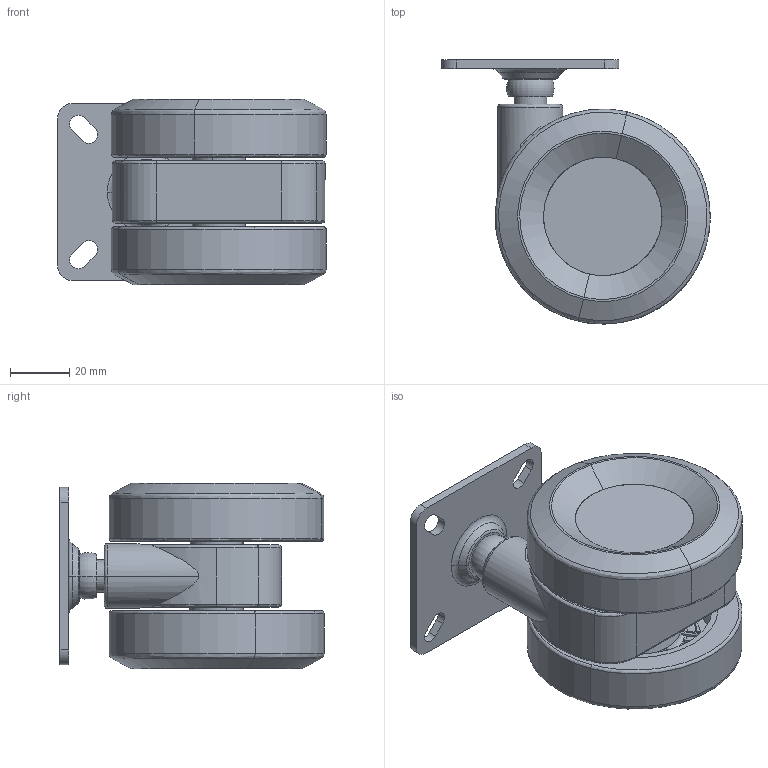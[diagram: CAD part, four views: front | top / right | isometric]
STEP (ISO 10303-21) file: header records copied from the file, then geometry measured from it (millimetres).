
FILE_DESCRIPTION (( 'STEP AP203' ), '1' );
FILE_NAME ('11100300242043.STEP', '2025-07-23T02:10:57', ( '20241006' ), ( '' ), 'SwSTEP 2.0', 'SolidWorks 2021', '' );
FILE_SCHEMA (( 'CONFIG_CONTROL_DESIGN' ));
Length unit declared in the file: millimetre
Products named in the file (11): 复件 魂?殤(DriVe妀?蚚)_蕼偞^3寸活動優優輪（未装铁件）_預設; 3''''''''魂伢_??-1倰_蕼偞_預設; 11100300242043; 复件 3''''''''褞?__?-1倰_蕼偞^3寸活動優優輪（未装铁件）_預設; 复件 3''''''''褞?_滅?屳-1倰_蕼偞^3寸活動優優輪（未装铁件）_預設; (60x60x3)底板鉚插桿鉚釘; ?11x?16x38.5L(鉚頭?9.3)插桿; 3''''''''ÑŽ?_PU‚X‹D-1‚’_Êœ‚´_îAÔO; 60x60菁啣
Assembly tree (12 placements, depth 3):
  11100300242043
    复件 3''''''''褞?__?-1倰_蕼偞^3寸活動優優輪（未装铁件）_預設
      3''''''''魂伢_??-1倰_蕼偞_預設
      3''''''''ÑŽ?_PU‚X‹D-1‚’_Êœ‚´_îAÔO
    复件 3''''''''褞?__?-1倰_蕼偞^3寸活動優優輪（未装铁件）_預設
      3''''''''魂伢_??-1倰_蕼偞_預設
      3''''''''ÑŽ?_PU‚X‹D-1‚’_Êœ‚´_îAÔO
    复件 3''''''''褞?_滅?屳-1倰_蕼偞^3寸活動優優輪（未装铁件）_預設  x2
    复件 魂?殤(DriVe妀?蚚)_蕼偞^3寸活動優優輪（未装铁件）_預設
    (60x60x3)底板鉚插桿鉚釘
      ?11x?16x38.5L(鉚頭?9.3)插桿
      60x60菁啣
Bounding box: 90.89 x 89.41 x 62.74 mm (x, y, z)
Volume: 139296.9 mm3; surface area: 96076.7 mm2
Topology: 9 solids, 9 shells, 987 faces, 2877 edges, 1832 vertices
Faces by surface type: cylinder 425, plane 350, bspline 126, cone 72, torus 12, sphere 2
Entity records: 31895 total; most frequent: CARTESIAN_POINT 9445, ORIENTED_EDGE 4668, DIRECTION 4565, EDGE_CURVE 2334, AXIS2_PLACEMENT_3D 1947, VERTEX_POINT 1497, CIRCLE 1242, EDGE_LOOP 901
